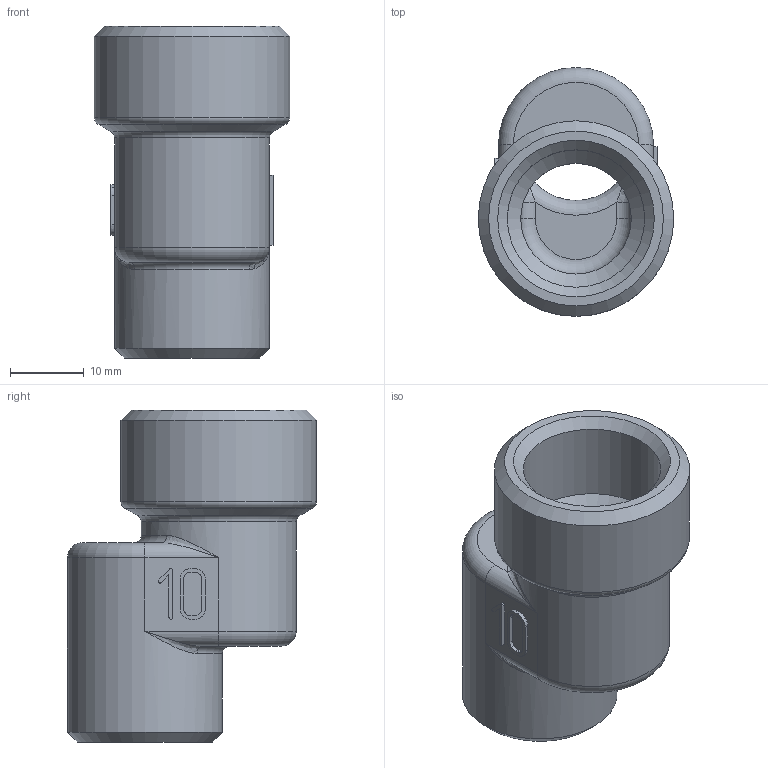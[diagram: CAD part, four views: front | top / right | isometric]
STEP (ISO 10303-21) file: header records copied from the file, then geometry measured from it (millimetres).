
FILE_DESCRIPTION(('STEP AP203'), '1');
FILE_NAME('ÂÐ.752289.007 - VTr.094.N.04010 - Ôèò. ðåçüá. ýêñö', '2024-06-21T11:46:51', ('Boss'), (''), 'C3D Converter', 'C3D Toolkit', '');
FILE_SCHEMA(('CONFIG_CONTROL_DESIGN'));
Length unit declared in the file: millimetre
Products named in the file (1): ВР.752289.007
Bounding box: 26.5 x 33.75 x 45 mm (x, y, z)
Volume: 10756.8 mm3; surface area: 6935.5 mm2
Topology: 1 solids, 1 shells, 108 faces, 272 edges, 164 vertices
Faces by surface type: plane 42, extrusion 27, cylinder 15, torus 11, bspline 8, cone 5
Full cylindrical faces by diameter (mm): 15 x2, 18.632 x1, 21 x2, 26.5 x1
Entity records: 4151 total; most frequent: CARTESIAN_POINT 1787, ORIENTED_EDGE 500, DIRECTION 389, EDGE_CURVE 250, VERTEX_POINT 164, VECTOR 157, EDGE_LOOP 130, LINE 130
